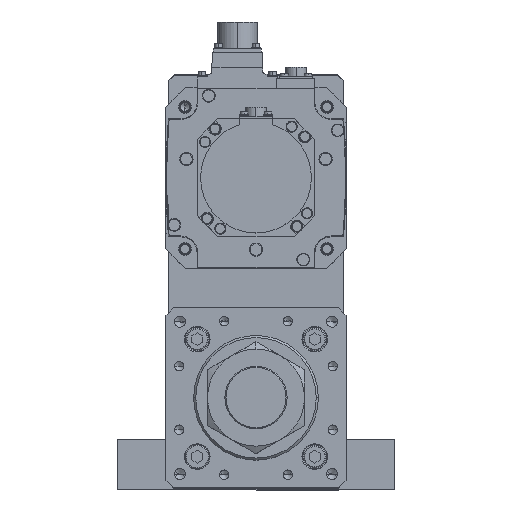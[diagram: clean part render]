
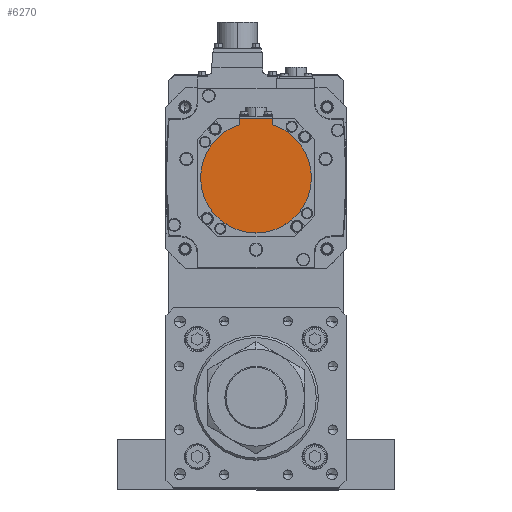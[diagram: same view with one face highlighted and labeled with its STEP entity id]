
A CAD part, top view. The second image highlights one B-rep face of the part: STEP entity #6270.
In plain terms, the highlighted planar face has unit normal (0, 0, 1) as drawn and (0, 0, -1) by its records, which use the part's own axes.
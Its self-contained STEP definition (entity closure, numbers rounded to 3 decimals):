
#152 = AXIS2_PLACEMENT_3D ( 'NONE', #807, #1471, #27912 ) ;
#807 = CARTESIAN_POINT ( 'NONE',  ( 0., 0., -181. ) ) ;
#821 = AXIS2_PLACEMENT_3D ( 'NONE', #17002, #29321, #29184 ) ;
#1000 = CARTESIAN_POINT ( 'NONE',  ( 0., 0., -181. ) ) ;
#1053 = CARTESIAN_POINT ( 'NONE',  ( 0., -1.25, -181. ) ) ;
#1471 = DIRECTION ( 'NONE',  ( 0., 0., 1. ) ) ;
#2554 = CARTESIAN_POINT ( 'NONE',  ( 12., -1.25, -181. ) ) ;
#4763 = EDGE_CURVE ( 'NONE', #37977, #30793, #7454, .T. ) ;
#5888 = CIRCLE ( 'NONE', #152, 40. ) ;
#6270 = ADVANCED_FACE ( 'NONE', ( #38056 ), #19269, .F. ) ;
#7454 = LINE ( 'NONE', #26474, #33896 ) ;
#10559 = DIRECTION ( 'NONE',  ( -1., 0., 0. ) ) ;
#11359 = ORIENTED_EDGE ( 'NONE', *, *, #12035, .F. ) ;
#12035 = EDGE_CURVE ( 'NONE', #38514, #29849, #35717, .T. ) ;
#13676 = EDGE_CURVE ( 'NONE', #31108, #30793, #25636, .T. ) ;
#13923 = ORIENTED_EDGE ( 'NONE', *, *, #28284, .F. ) ;
#15482 = CARTESIAN_POINT ( 'NONE',  ( -12., -42.5, -181. ) ) ;
#15822 = VECTOR ( 'NONE', #26339, 1000. ) ;
#17002 = CARTESIAN_POINT ( 'NONE',  ( 0., 0., -181. ) ) ;
#18079 = AXIS2_PLACEMENT_3D ( 'NONE', #1053, #19945, #29066 ) ;
#18248 = CARTESIAN_POINT ( 'NONE',  ( 12., -42.5, -181. ) ) ;
#18953 = CARTESIAN_POINT ( 'NONE',  ( 12., -38.158, -181. ) ) ;
#19269 = PLANE ( 'NONE',  #18079 ) ;
#19607 = CARTESIAN_POINT ( 'NONE',  ( -40., 0., -181. ) ) ;
#19646 = CARTESIAN_POINT ( 'NONE',  ( 0., -42.5, -181. ) ) ;
#19945 = DIRECTION ( 'NONE',  ( 0., 0., 1. ) ) ;
#22952 = VECTOR ( 'NONE', #10559, 1000. ) ;
#24050 = CARTESIAN_POINT ( 'NONE',  ( -12., -38.158, -181. ) ) ;
#24112 = EDGE_CURVE ( 'NONE', #28220, #31108, #5888, .T. ) ;
#25313 = CARTESIAN_POINT ( 'NONE',  ( 40., 0., -181. ) ) ;
#25334 = LINE ( 'NONE', #19646, #22952 ) ;
#25582 = ORIENTED_EDGE ( 'NONE', *, *, #24112, .F. ) ;
#25636 = CIRCLE ( 'NONE', #821, 40. ) ;
#26339 = DIRECTION ( 'NONE',  ( 0., 1., 0. ) ) ;
#26474 = CARTESIAN_POINT ( 'NONE',  ( -12., -40.329, -181. ) ) ;
#26737 = AXIS2_PLACEMENT_3D ( 'NONE', #1000, #31098, #37465 ) ;
#27912 = DIRECTION ( 'NONE',  ( 1., 0., 0. ) ) ;
#28220 = VERTEX_POINT ( 'NONE', #25313 ) ;
#28284 = EDGE_CURVE ( 'NONE', #29849, #28220, #35871, .T. ) ;
#28775 = ORIENTED_EDGE ( 'NONE', *, *, #31878, .T. ) ;
#29066 = DIRECTION ( 'NONE',  ( 1., 0., 0. ) ) ;
#29184 = DIRECTION ( 'NONE',  ( 1., 0., 0. ) ) ;
#29321 = DIRECTION ( 'NONE',  ( 0., 0., 1. ) ) ;
#29849 = VERTEX_POINT ( 'NONE', #18953 ) ;
#30793 = VERTEX_POINT ( 'NONE', #24050 ) ;
#31098 = DIRECTION ( 'NONE',  ( 0., 0., 1. ) ) ;
#31108 = VERTEX_POINT ( 'NONE', #19607 ) ;
#31878 = EDGE_CURVE ( 'NONE', #38514, #37977, #25334, .T. ) ;
#32644 = ORIENTED_EDGE ( 'NONE', *, *, #4763, .T. ) ;
#33896 = VECTOR ( 'NONE', #35588, 1000. ) ;
#34550 = ORIENTED_EDGE ( 'NONE', *, *, #13676, .F. ) ;
#35588 = DIRECTION ( 'NONE',  ( 0., 1., 0. ) ) ;
#35717 = LINE ( 'NONE', #2554, #15822 ) ;
#35871 = CIRCLE ( 'NONE', #26737, 40. ) ;
#37352 = EDGE_LOOP ( 'NONE', ( #32644, #34550, #25582, #13923, #11359, #28775 ) ) ;
#37465 = DIRECTION ( 'NONE',  ( 1., 0., 0. ) ) ;
#37977 = VERTEX_POINT ( 'NONE', #15482 ) ;
#38056 = FACE_OUTER_BOUND ( 'NONE', #37352, .T. ) ;
#38514 = VERTEX_POINT ( 'NONE', #18248 ) ;
